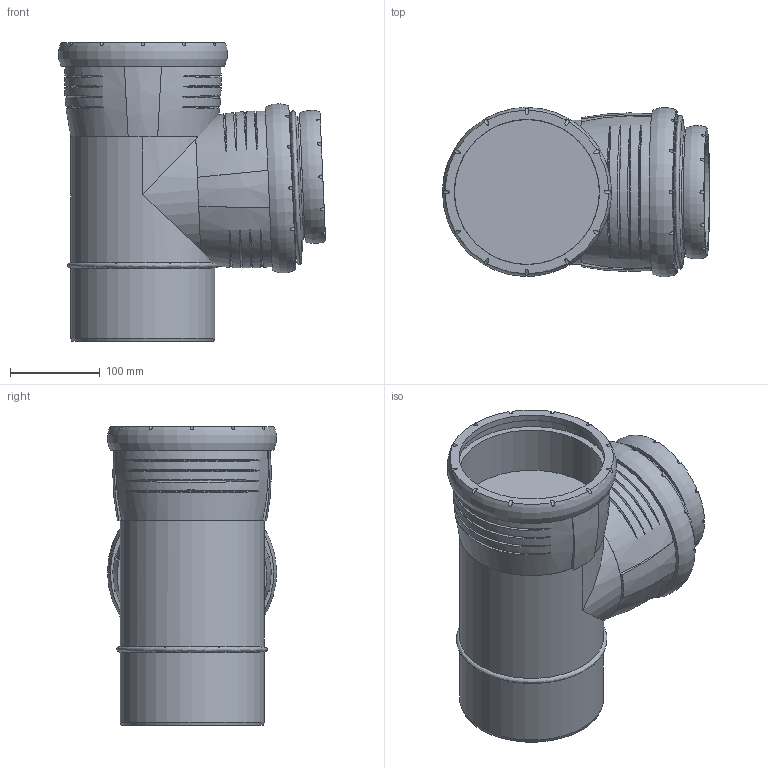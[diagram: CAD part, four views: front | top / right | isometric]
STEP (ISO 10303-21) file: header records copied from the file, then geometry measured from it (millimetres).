
FILE_DESCRIPTION(/* description */ (''),/* implementation_level */ '2;1');
FILE_NAME(/* name */ 'H:\Geberit-Teile\Export\Abzweig PP\stp\393752.stp',/* time_stamp */ '2017-02-13T13:22:12+01:00',/* author */ ('seihe2'),/* organization */ (''),/* preprocessor_version */ 'ST-DEVELOPER v15.2',/* originating_system */ 'Autodesk Inventor 2014',/* authorisation */ '');
FILE_SCHEMA (('AUTOMOTIVE_DESIGN { 1 0 10303 214 3 1 1 }'));
Length unit declared in the file: millimetre
Products named in the file (1): 393752
Bounding box: 297.3 x 188.24 x 332.65 mm (x, y, z)
Volume: 6053513.4 mm3; surface area: 697662.4 mm2
Topology: 6 solids, 6 shells, 145 faces, 345 edges, 239 vertices
Faces by surface type: cylinder 62, bspline 47, plane 30, cone 3, torus 3
Full cylindrical faces by diameter (mm): 126 x1, 126.4 x1, 126.565 x2, 135.5 x1, 138.1 x1, 148.25 x2, 160.25 x4, 161.2 x2, 161.7 x2, 174.9 x2
Entity records: 9278 total; most frequent: CARTESIAN_POINT 6155, ORIENTED_EDGE 624, DIRECTION 535, EDGE_CURVE 311, AXIS2_PLACEMENT_3D 259, VERTEX_POINT 229, EDGE_LOOP 200, STYLED_ITEM 149
